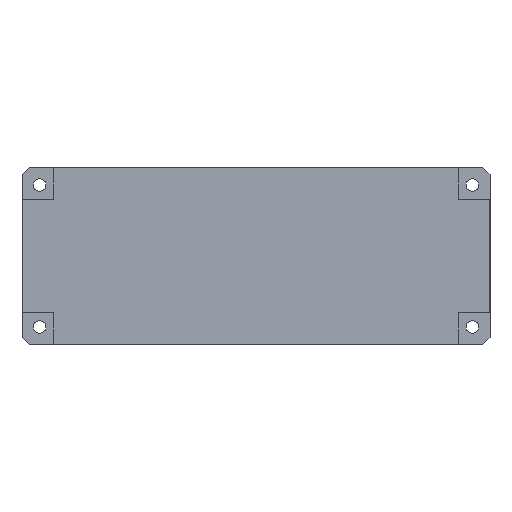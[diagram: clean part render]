
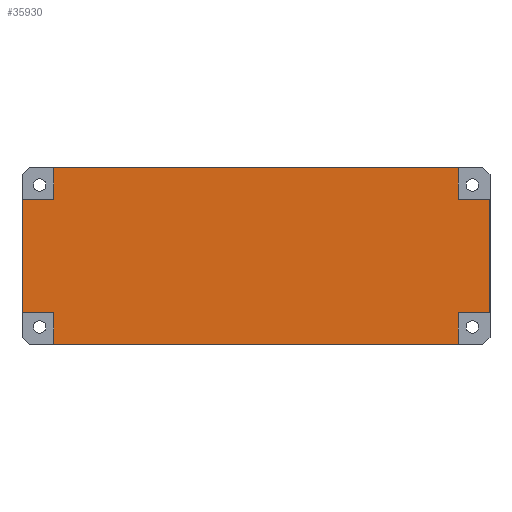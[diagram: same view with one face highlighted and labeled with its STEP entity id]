
A CAD part, front view. The second image highlights one B-rep face of the part: STEP entity #35930.
In plain terms, the highlighted planar face has unit normal (0, -1, 0).
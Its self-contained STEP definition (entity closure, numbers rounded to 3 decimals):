
#13616 = CARTESIAN_POINT ( 'NONE',  ( 9., -8., -49.9 ) ) ;
#13646 = CARTESIAN_POINT ( 'NONE',  ( 123., -8., -49.9 ) ) ;
#13653 = DIRECTION ( 'NONE',  ( -1., 0., 0. ) ) ;
#13654 = VECTOR ( 'NONE', #13653, 1000. ) ;
#13655 = CARTESIAN_POINT ( 'NONE',  ( 0.1, -8., -49.9 ) ) ;
#13656 = LINE ( 'NONE', #13655, #13654 ) ;
#13759 = VECTOR ( 'NONE', #13776, 1000. ) ;
#13768 = LINE ( 'NONE', #13777, #13759 ) ;
#13776 = DIRECTION ( 'NONE',  ( 1., 0., 0. ) ) ;
#13777 = CARTESIAN_POINT ( 'NONE',  ( 131.9, -8., -41. ) ) ;
#13795 = DIRECTION ( 'NONE',  ( 1., 0., 0. ) ) ;
#13796 = VECTOR ( 'NONE', #13795, 1000. ) ;
#13797 = CARTESIAN_POINT ( 'NONE',  ( 0.1, -8., -0.1 ) ) ;
#13802 = LINE ( 'NONE', #13797, #13796 ) ;
#13811 = CARTESIAN_POINT ( 'NONE',  ( 0.1, -8., -9. ) ) ;
#13815 = CARTESIAN_POINT ( 'NONE',  ( 0.1, -8., -41. ) ) ;
#13825 = LINE ( 'NONE', #13845, #13844 ) ;
#13843 = DIRECTION ( 'NONE',  ( 0., 0., 1. ) ) ;
#13844 = VECTOR ( 'NONE', #13843, 1000. ) ;
#13845 = CARTESIAN_POINT ( 'NONE',  ( 0.1, -8., -0.1 ) ) ;
#13891 = DIRECTION ( 'NONE',  ( 0., 0., -1. ) ) ;
#13892 = CARTESIAN_POINT ( 'NONE',  ( 9., -8., -49.9 ) ) ;
#13895 = CARTESIAN_POINT ( 'NONE',  ( 123., -8., -41. ) ) ;
#13914 = CARTESIAN_POINT ( 'NONE',  ( 123., -8., -0.1 ) ) ;
#13924 = CARTESIAN_POINT ( 'NONE',  ( 9., -8., -0.1 ) ) ;
#13927 = DIRECTION ( 'NONE',  ( 1., 0., 0. ) ) ;
#13928 = VECTOR ( 'NONE', #13927, 1000. ) ;
#13929 = CARTESIAN_POINT ( 'NONE',  ( 0.1, -8., -41. ) ) ;
#13947 = LINE ( 'NONE', #13892, #13986 ) ;
#13948 = LINE ( 'NONE', #13929, #13928 ) ;
#13951 = CARTESIAN_POINT ( 'NONE',  ( 9., -8., -41. ) ) ;
#13965 = DIRECTION ( 'NONE',  ( 0., 0., 1. ) ) ;
#13966 = VECTOR ( 'NONE', #13965, 1000. ) ;
#13968 = CARTESIAN_POINT ( 'NONE',  ( 123., -8., -0.1 ) ) ;
#13970 = FACE_OUTER_BOUND ( 'NONE', #35931, .T. ) ;
#13974 = DIRECTION ( 'NONE',  ( 0., 0., -1. ) ) ;
#13975 = VECTOR ( 'NONE', #13974, 1000. ) ;
#13979 = CARTESIAN_POINT ( 'NONE',  ( 123., -8., -9. ) ) ;
#13981 = DIRECTION ( 'NONE',  ( -1., 0., 0. ) ) ;
#13983 = VECTOR ( 'NONE', #13981, 1000. ) ;
#13984 = CARTESIAN_POINT ( 'NONE',  ( 9., -8., -9. ) ) ;
#13986 = VECTOR ( 'NONE', #13891, 1000. ) ;
#13989 = CARTESIAN_POINT ( 'NONE',  ( 9., -8., -0.1 ) ) ;
#13991 = LINE ( 'NONE', #13989, #13975 ) ;
#13992 = LINE ( 'NONE', #13968, #13966 ) ;
#13993 = CARTESIAN_POINT ( 'NONE',  ( 131.9, -8., -9. ) ) ;
#13994 = LINE ( 'NONE', #13993, #13983 ) ;
#13995 = DIRECTION ( 'NONE',  ( 0., 0., 1. ) ) ;
#13996 = VECTOR ( 'NONE', #13995, 1000. ) ;
#13997 = CARTESIAN_POINT ( 'NONE',  ( 123., -8., -49.9 ) ) ;
#13998 = LINE ( 'NONE', #13997, #13996 ) ;
#13999 = DIRECTION ( 'NONE',  ( -1., 0., 0. ) ) ;
#14000 = VECTOR ( 'NONE', #13999, 1000. ) ;
#14001 = CARTESIAN_POINT ( 'NONE',  ( 0.1, -8., -9. ) ) ;
#14002 = LINE ( 'NONE', #14001, #14000 ) ;
#14017 = DIRECTION ( 'NONE',  ( 0., 0., -1. ) ) ;
#14018 = DIRECTION ( 'NONE',  ( 0., -1., 0. ) ) ;
#14019 = CARTESIAN_POINT ( 'NONE',  ( 0.1, -8., -49.9 ) ) ;
#14020 = AXIS2_PLACEMENT_3D ( 'NONE', #14019, #14018, #14017 ) ;
#14028 = PLANE ( 'NONE',  #14020 ) ;
#14548 = LINE ( 'NONE', #14591, #14625 ) ;
#14573 = CARTESIAN_POINT ( 'NONE',  ( 131.9, -8., -9. ) ) ;
#14591 = CARTESIAN_POINT ( 'NONE',  ( 131.9, -8., -0.1 ) ) ;
#14594 = CARTESIAN_POINT ( 'NONE',  ( 131.9, -8., -41. ) ) ;
#14624 = DIRECTION ( 'NONE',  ( 0., 0., -1. ) ) ;
#14625 = VECTOR ( 'NONE', #14624, 1000. ) ;
#35810 = VERTEX_POINT ( 'NONE', #13616 ) ;
#35815 = EDGE_CURVE ( 'NONE', #35818, #35810, #13656, .T. ) ;
#35818 = VERTEX_POINT ( 'NONE', #13646 ) ;
#35849 = EDGE_CURVE ( 'NONE', #35928, #36121, #13768, .T. ) ;
#35851 = ORIENTED_EDGE ( 'NONE', *, *, #35849, .T. ) ;
#35853 = EDGE_CURVE ( 'NONE', #35883, #35888, #13802, .T. ) ;
#35865 = VERTEX_POINT ( 'NONE', #13811 ) ;
#35867 = VERTEX_POINT ( 'NONE', #13815 ) ;
#35871 = EDGE_CURVE ( 'NONE', #35867, #35865, #13825, .T. ) ;
#35883 = VERTEX_POINT ( 'NONE', #13924 ) ;
#35888 = VERTEX_POINT ( 'NONE', #13914 ) ;
#35905 = ORIENTED_EDGE ( 'NONE', *, *, #35907, .T. ) ;
#35907 = EDGE_CURVE ( 'NONE', #35867, #35912, #13948, .T. ) ;
#35908 = EDGE_CURVE ( 'NONE', #35921, #35865, #14002, .T. ) ;
#35909 = EDGE_CURVE ( 'NONE', #35818, #35928, #13998, .T. ) ;
#35911 = ORIENTED_EDGE ( 'NONE', *, *, #35815, .F. ) ;
#35912 = VERTEX_POINT ( 'NONE', #13951 ) ;
#35913 = ORIENTED_EDGE ( 'NONE', *, *, #35871, .F. ) ;
#35914 = EDGE_CURVE ( 'NONE', #35912, #35810, #13947, .T. ) ;
#35915 = ORIENTED_EDGE ( 'NONE', *, *, #35914, .T. ) ;
#35916 = ORIENTED_EDGE ( 'NONE', *, *, #35909, .T. ) ;
#35917 = EDGE_CURVE ( 'NONE', #36129, #35924, #13994, .T. ) ;
#35918 = ORIENTED_EDGE ( 'NONE', *, *, #35908, .T. ) ;
#35919 = ORIENTED_EDGE ( 'NONE', *, *, #35853, .F. ) ;
#35920 = EDGE_CURVE ( 'NONE', #35883, #35921, #13991, .T. ) ;
#35921 = VERTEX_POINT ( 'NONE', #13984 ) ;
#35922 = EDGE_CURVE ( 'NONE', #35924, #35888, #13992, .T. ) ;
#35923 = ORIENTED_EDGE ( 'NONE', *, *, #35920, .T. ) ;
#35924 = VERTEX_POINT ( 'NONE', #13979 ) ;
#35925 = ORIENTED_EDGE ( 'NONE', *, *, #35922, .T. ) ;
#35927 = ORIENTED_EDGE ( 'NONE', *, *, #36131, .F. ) ;
#35928 = VERTEX_POINT ( 'NONE', #13895 ) ;
#35929 = ORIENTED_EDGE ( 'NONE', *, *, #35917, .T. ) ;
#35930 = ADVANCED_FACE ( 'NONE', ( #13970 ), #14028, .T. ) ;
#35931 = EDGE_LOOP ( 'NONE', ( #35851, #35927, #35929, #35925, #35919, #35923, #35918, #35913, #35905, #35915, #35911, #35916 ) ) ;
#36121 = VERTEX_POINT ( 'NONE', #14594 ) ;
#36129 = VERTEX_POINT ( 'NONE', #14573 ) ;
#36131 = EDGE_CURVE ( 'NONE', #36129, #36121, #14548, .T. ) ;
